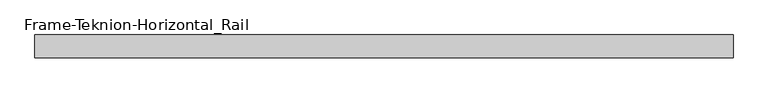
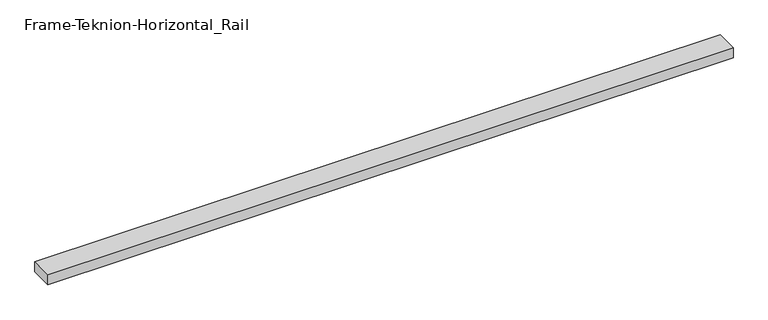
"""IFC4 building model written with IfcOpenShell, lengths in millimetres: proxy geometry, Frame-Teknion-Horizontal_Rail : FPKK."""

from ifc_helpers import new_model, si_unit, frame, origin, place, context, project, spatial, polyline, outline, extrude, source, transform, mapped, element, save


def frame_teknion_horizontal_rail_fbfe6c54(model_context):
    return source(origin(), model_context, "Body", "SweptSolid", [
        extrude(outline(polyline([(-893.4152344, -29.2199219), (-893.4152344, 29.2199219), (893.4152344, 29.2199219), (893.4152344, -29.2199219), (-893.4152344, -29.2199219)])), frame((0.0, 0.0, -13.9898438), z_axis=(0.0, 0.0, 1.0), x_axis=(1.0, 0.0, 0.0)), (0.0, 0.0, 1.0), 27.9796875),
    ])


if __name__ == "__main__":
    model = new_model("IFC4")
    model_context = context("Model", 3, world=origin())
    ifc_project = project(units=[si_unit("LENGTHUNIT", "METRE", prefix="MILLI")], contexts=[model_context])
    site = spatial("IfcSite", under=ifc_project)
    building = spatial("IfcBuilding", under=site)
    placement = place(None, origin())
    frame_teknion_horizontal_rail_shape = frame_teknion_horizontal_rail_fbfe6c54(model_context)
    element("IfcBuildingElementProxy", 1, Name="Frame-Teknion-Horizontal_Rail : FPKK", ObjectType="Frame-Teknion-Horizontal_Rail : FPKK", at=placement, inside=building, context=model_context, shape_type="MappedRepresentation", body=[
        mapped(frame_teknion_horizontal_rail_shape, transform((0.0, 0.0, 0.0), x_axis=(1.0, 0.0, 0.0), y_axis=(0.0, 1.0, 0.0), z_axis=(0.0, 0.0, 1.0))),
    ])
    save(model, "model.ifc")
